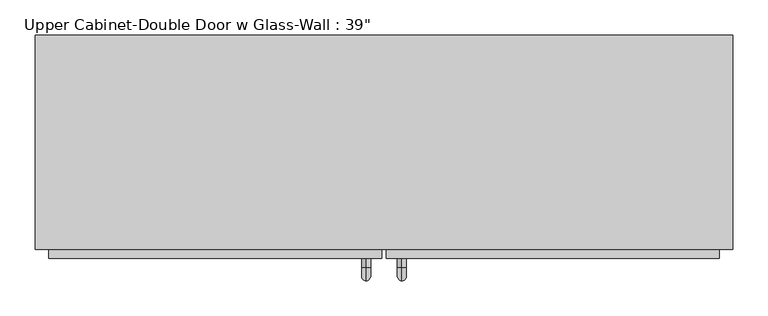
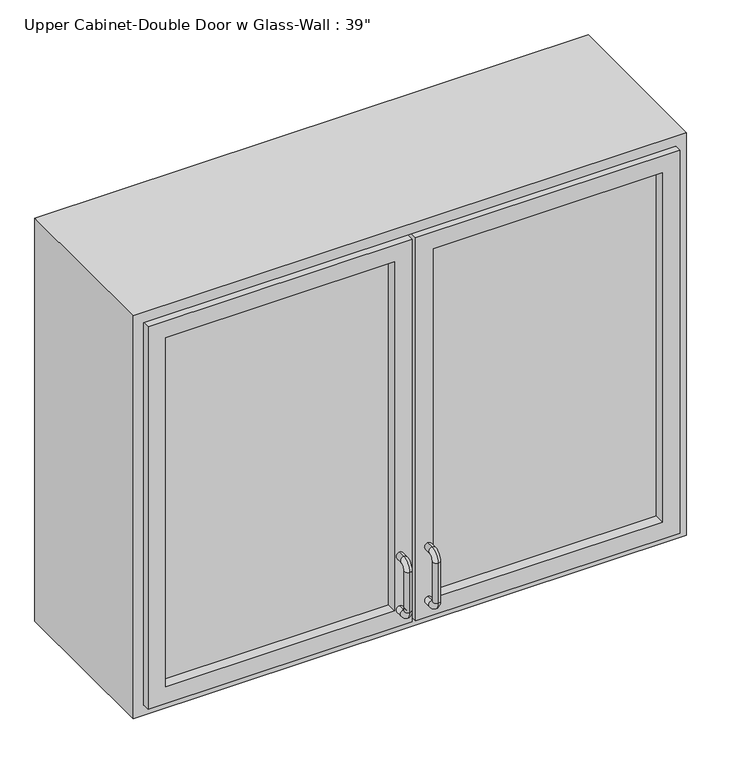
"""IFC4 building model written with IfcOpenShell, lengths in millimetres: furniture geometry."""

from ifc_helpers import new_model, si_unit, point, frame, origin, place, context, project, spatial, polyline, circle_curve, ellipse_curve, trimmed, outline, extrude, faceted_brep, source, transform, mapped, element, save
from ifc_brep_helpers import plane_surface, cylinder_surface, revolved_surface, advanced_brep


def furniture_7e61e6c6(model_context):
    return source(origin(), model_context, "Body", "SolidModel", [
        faceted_brep([(-465.5288372, -76.2, 2133.6), (525.0711628, -76.2, 2133.6), (525.0711628, -76.2, 1371.6), (-465.5288372, -76.2, 1371.6), (-465.5288372, -381.0, 2133.6), (-465.5288372, -381.0, 1371.6), (525.0711628, -381.0, 1371.6), (525.0711628, -381.0, 2133.6), (-446.4788372, -381.0, 2114.55), (506.0211628, -381.0, 2114.55), (506.0211628, -381.0, 1390.65), (-446.4788372, -381.0, 1390.65), (-446.4788372, -95.25, 2114.55), (506.0211628, -95.25, 2114.55), (506.0211628, -95.25, 1390.65), (-446.4788372, -95.25, 1390.65)], [[[0, 1, 2, 3]], [[4, 5, 6, 7], [8, 9, 10, 11]], [[3, 5, 4, 0]], [[2, 6, 5, 3]], [[1, 7, 6, 2]], [[0, 4, 7, 1]], [[8, 12, 13, 9]], [[9, 13, 14, 10]], [[10, 14, 15, 11]], [[11, 15, 12, 8]], [[12, 15, 14, 13]]]),
        advanced_brep(
        [(55.1711628, -393.7, 1517.65), (55.1711628, -393.7, 1530.35), (55.1711628, -406.4, 1530.35), (55.1711628, -406.4, 1517.65), (55.1711628, -425.45, 1511.3), (55.1711628, -412.75, 1511.3), (55.1711628, -425.45, 1435.1), (55.1711628, -412.75, 1435.1), (55.1711628, -406.4, 1416.05), (55.1711628, -406.4, 1428.75), (55.1711628, -393.7, 1428.75), (55.1711628, -393.7, 1416.05)],
        [
            (0, 1, circle_curve(frame((55.1711628, -393.7, 1524.0), z_axis=(0.0, 1.0, 0.0), x_axis=(0.0, 0.0, -1.0)), 6.35)),
            (1, 0, circle_curve(frame((55.1711628, -393.7, 1524.0), z_axis=(0.0, 1.0, 0.0), x_axis=(0.0, 0.0, -1.0)), 6.35)),
            (1, 2),
            (2, 3, circle_curve(frame((55.1711628, -406.4, 1524.0), z_axis=(0.0, 1.0, 0.0), x_axis=(0.0, 0.0, -1.0)), 6.35)),
            (3, 0),
            (3, 2, circle_curve(frame((55.1711628, -406.4, 1524.0), z_axis=(0.0, 1.0, 0.0), x_axis=(0.0, 0.0, -1.0)), 6.35)),
            (4, 5, circle_curve(frame((55.1711628, -419.1, 1511.3), z_axis=(0.0, 0.0, 1.0), x_axis=(0.0, 1.0, 0.0)), 6.35)),
            (5, 3, circle_curve(frame((55.1711628, -406.4, 1511.3), z_axis=(-1.0, 0.0, 0.0), x_axis=(0.0, 0.0, 1.0)), 6.35)),
            (2, 4, circle_curve(frame((55.1711628, -406.4, 1511.3), z_axis=(1.0, 0.0, 0.0), x_axis=(0.0, 0.0, 1.0)), 19.05)),
            (5, 4, circle_curve(frame((55.1711628, -419.1, 1511.3), z_axis=(0.0, 0.0, 1.0), x_axis=(0.0, 1.0, 0.0)), 6.35)),
            (4, 6),
            (6, 7, circle_curve(frame((55.1711628, -419.1, 1435.1), z_axis=(0.0, 0.0, 1.0), x_axis=(0.0, 1.0, 0.0)), 6.35)),
            (7, 5),
            (7, 6, circle_curve(frame((55.1711628, -419.1, 1435.1), z_axis=(0.0, 0.0, 1.0), x_axis=(0.0, 1.0, 0.0)), 6.35)),
            (8, 9, circle_curve(frame((55.1711628, -406.4, 1422.4), z_axis=(0.0, -1.0, 0.0), x_axis=(0.0, 0.0, 1.0)), 6.35)),
            (9, 7, circle_curve(frame((55.1711628, -406.4, 1435.1), z_axis=(-1.0, 0.0, 0.0), x_axis=(0.0, -1.0, 0.0)), 6.35)),
            (6, 8, circle_curve(frame((55.1711628, -406.4, 1435.1), z_axis=(1.0, 0.0, 0.0), x_axis=(0.0, -1.0, 0.0)), 19.05)),
            (9, 8, circle_curve(frame((55.1711628, -406.4, 1422.4), z_axis=(0.0, -1.0, 0.0), x_axis=(0.0, 0.0, 1.0)), 6.35)),
            (10, 11, circle_curve(frame((55.1711628, -393.7, 1422.4), z_axis=(0.0, 1.0, 0.0), x_axis=(0.0, 0.0, 1.0)), 6.35)),
            (11, 10, circle_curve(frame((55.1711628, -393.7, 1422.4), z_axis=(0.0, 1.0, 0.0), x_axis=(0.0, 0.0, 1.0)), 6.35)),
            (8, 11),
            (10, 9),
        ],
        [
            plane_surface(frame((48.8211628, -393.7, 1524.0), z_axis=(0.0, 1.0, 0.0), x_axis=(0.0, 0.0, 1.0))),
            cylinder_surface(frame((55.1711628, -393.7, 1524.0), z_axis=(0.0, 1.0, 0.0), x_axis=(0.0, 0.0, -1.0)), 6.35),
            revolved_surface(trimmed(ellipse_curve(frame((55.1711628, -406.4, 1524.0), z_axis=(0.0, -1.0, 0.0), x_axis=(0.0, 0.0, -1.0)), 6.35, 6.35), [point((55.1711628, -406.4, 1517.65))], [point((55.1711628, -406.4, 1530.35))], True, "CARTESIAN"), (55.1711628, -406.4, 1511.3), (-1.0, 0.0, 0.0)),
            revolved_surface(trimmed(ellipse_curve(frame((55.1711628, -406.4, 1524.0), z_axis=(0.0, -1.0, 0.0), x_axis=(0.0, 0.0, -1.0)), 6.35, 6.35), [point((55.1711628, -406.4, 1530.35))], [point((55.1711628, -406.4, 1517.65))], True, "CARTESIAN"), (55.1711628, -406.4, 1511.3), (-1.0, 0.0, 0.0)),
            cylinder_surface(frame((55.1711628, -419.1, 1511.3), z_axis=(0.0, 0.0, 1.0), x_axis=(0.0, 1.0, 0.0)), 6.35),
            revolved_surface(trimmed(ellipse_curve(frame((55.1711628, -419.1, 1435.1), z_axis=(0.0, 0.0, -1.0), x_axis=(0.0, 1.0, 0.0)), 6.35, 6.35), [point((55.1711628, -412.75, 1435.1))], [point((55.1711628, -425.45, 1435.1))], True, "CARTESIAN"), (55.1711628, -406.4, 1435.1), (-1.0, 0.0, 0.0)),
            revolved_surface(trimmed(ellipse_curve(frame((55.1711628, -419.1, 1435.1), z_axis=(0.0, 0.0, -1.0), x_axis=(0.0, 1.0, 0.0)), 6.35, 6.35), [point((55.1711628, -425.45, 1435.1))], [point((55.1711628, -412.75, 1435.1))], True, "CARTESIAN"), (55.1711628, -406.4, 1435.1), (-1.0, 0.0, 0.0)),
            plane_surface(frame((48.8211628, -393.7, 1422.4), z_axis=(0.0, 1.0, 0.0), x_axis=(0.0, 0.0, -1.0))),
            cylinder_surface(frame((55.1711628, -406.4, 1422.4), z_axis=(0.0, -1.0, 0.0), x_axis=(0.0, 0.0, 1.0)), 6.35),
        ],
        [
            (0, [[1, 2]]),
            (1, [[3, 4, 5, -2]]),
            (1, [[-5, 6, -3, -1]]),
            (2, [[7, 8, -4, 9]]),
            (3, [[10, -9, -6, -8]]),
            (4, [[11, 12, 13, -7]]),
            (4, [[-13, 14, -11, -10]]),
            (5, [[15, 16, -12, 17]]),
            (6, [[18, -17, -14, -16]]),
            (7, [[19, 20]]),
            (8, [[21, -19, 22, -15]]),
            (8, [[-22, -20, -21, -18]]),
        ],
    ),
        advanced_brep(
        [(4.3711628, -393.7, 1517.65), (4.3711628, -393.7, 1530.35), (4.3711628, -406.4, 1530.35), (4.3711628, -406.4, 1517.65), (4.3711628, -425.45, 1511.3), (4.3711628, -412.75, 1511.3), (4.3711628, -425.45, 1435.1), (4.3711628, -412.75, 1435.1), (4.3711628, -406.4, 1416.05), (4.3711628, -406.4, 1428.75), (4.3711628, -393.7, 1428.75), (4.3711628, -393.7, 1416.05)],
        [
            (0, 1, circle_curve(frame((4.3711628, -393.7, 1524.0), z_axis=(0.0, 1.0, 0.0), x_axis=(0.0, 0.0, 1.0)), 6.35)),
            (1, 0, circle_curve(frame((4.3711628, -393.7, 1524.0), z_axis=(0.0, 1.0, 0.0), x_axis=(0.0, 0.0, 1.0)), 6.35)),
            (1, 2),
            (2, 3, circle_curve(frame((4.3711628, -406.4, 1524.0), z_axis=(0.0, 1.0, 0.0), x_axis=(0.0, 0.0, 1.0)), 6.35)),
            (3, 0),
            (3, 2, circle_curve(frame((4.3711628, -406.4, 1524.0), z_axis=(0.0, 1.0, 0.0), x_axis=(0.0, 0.0, 1.0)), 6.35)),
            (4, 5, circle_curve(frame((4.3711628, -419.1, 1511.3), z_axis=(0.0, 0.0, 1.0), x_axis=(0.0, -1.0, 0.0)), 6.35)),
            (5, 3, circle_curve(frame((4.3711628, -406.4, 1511.3), z_axis=(-1.0, 0.0, 0.0), x_axis=(0.0, 0.0, 1.0)), 6.35)),
            (2, 4, circle_curve(frame((4.3711628, -406.4, 1511.3), z_axis=(1.0, 0.0, 0.0), x_axis=(0.0, 0.0, 1.0)), 19.05)),
            (5, 4, circle_curve(frame((4.3711628, -419.1, 1511.3), z_axis=(0.0, 0.0, 1.0), x_axis=(0.0, -1.0, 0.0)), 6.35)),
            (4, 6),
            (6, 7, circle_curve(frame((4.3711628, -419.1, 1435.1), z_axis=(0.0, 0.0, 1.0), x_axis=(0.0, -1.0, 0.0)), 6.35)),
            (7, 5),
            (7, 6, circle_curve(frame((4.3711628, -419.1, 1435.1), z_axis=(0.0, 0.0, 1.0), x_axis=(0.0, -1.0, 0.0)), 6.35)),
            (8, 9, circle_curve(frame((4.3711628, -406.4, 1422.4), z_axis=(0.0, -1.0, 0.0), x_axis=(0.0, 0.0, -1.0)), 6.35)),
            (9, 7, circle_curve(frame((4.3711628, -406.4, 1435.1), z_axis=(-1.0, 0.0, 0.0), x_axis=(0.0, -1.0, 0.0)), 6.35)),
            (6, 8, circle_curve(frame((4.3711628, -406.4, 1435.1), z_axis=(1.0, 0.0, 0.0), x_axis=(0.0, -1.0, 0.0)), 19.05)),
            (9, 8, circle_curve(frame((4.3711628, -406.4, 1422.4), z_axis=(0.0, -1.0, 0.0), x_axis=(0.0, 0.0, -1.0)), 6.35)),
            (10, 11, circle_curve(frame((4.3711628, -393.7, 1422.4), z_axis=(0.0, 1.0, 0.0), x_axis=(0.0, 0.0, -1.0)), 6.35)),
            (11, 10, circle_curve(frame((4.3711628, -393.7, 1422.4), z_axis=(0.0, 1.0, 0.0), x_axis=(0.0, 0.0, -1.0)), 6.35)),
            (8, 11),
            (10, 9),
        ],
        [
            plane_surface(frame((-1.9788372, -393.7, 1524.0), z_axis=(0.0, 1.0, 0.0), x_axis=(0.0, 0.0, 1.0))),
            cylinder_surface(frame((4.3711628, -393.7, 1524.0), z_axis=(0.0, 1.0, 0.0), x_axis=(0.0, 0.0, 1.0)), 6.35),
            revolved_surface(trimmed(ellipse_curve(frame((4.3711628, -406.4, 1524.0), z_axis=(0.0, -1.0, 0.0), x_axis=(0.0, 0.0, 1.0)), 6.35, 6.35), [point((4.3711628, -406.4, 1517.65))], [point((4.3711628, -406.4, 1530.35))], True, "CARTESIAN"), (4.3711628, -406.4, 1511.3), (-1.0, 0.0, 0.0)),
            revolved_surface(trimmed(ellipse_curve(frame((4.3711628, -406.4, 1524.0), z_axis=(0.0, -1.0, 0.0), x_axis=(0.0, 0.0, 1.0)), 6.35, 6.35), [point((4.3711628, -406.4, 1530.35))], [point((4.3711628, -406.4, 1517.65))], True, "CARTESIAN"), (4.3711628, -406.4, 1511.3), (-1.0, 0.0, 0.0)),
            cylinder_surface(frame((4.3711628, -419.1, 1511.3), z_axis=(0.0, 0.0, 1.0), x_axis=(0.0, -1.0, 0.0)), 6.35),
            revolved_surface(trimmed(ellipse_curve(frame((4.3711628, -419.1, 1435.1), z_axis=(0.0, 0.0, -1.0), x_axis=(0.0, -1.0, 0.0)), 6.35, 6.35), [point((4.3711628, -412.75, 1435.1))], [point((4.3711628, -425.45, 1435.1))], True, "CARTESIAN"), (4.3711628, -406.4, 1435.1), (-1.0, 0.0, 0.0)),
            revolved_surface(trimmed(ellipse_curve(frame((4.3711628, -419.1, 1435.1), z_axis=(0.0, 0.0, -1.0), x_axis=(0.0, -1.0, 0.0)), 6.35, 6.35), [point((4.3711628, -425.45, 1435.1))], [point((4.3711628, -412.75, 1435.1))], True, "CARTESIAN"), (4.3711628, -406.4, 1435.1), (-1.0, 0.0, 0.0)),
            plane_surface(frame((-1.9788372, -393.7, 1422.4), z_axis=(0.0, 1.0, 0.0), x_axis=(0.0, 0.0, -1.0))),
            cylinder_surface(frame((4.3711628, -406.4, 1422.4), z_axis=(0.0, -1.0, 0.0), x_axis=(0.0, 0.0, -1.0)), 6.35),
        ],
        [
            (0, [[1, 2]]),
            (1, [[3, 4, 5, -2]]),
            (1, [[-5, 6, -3, -1]]),
            (2, [[7, 8, -4, 9]]),
            (3, [[10, -9, -6, -8]]),
            (4, [[11, 12, 13, -7]]),
            (4, [[-13, 14, -11, -10]]),
            (5, [[15, 16, -12, 17]]),
            (6, [[18, -17, -14, -16]]),
            (7, [[19, 20]]),
            (8, [[21, -19, 22, -15]]),
            (8, [[-22, -20, -21, -18]]),
        ],
    ),
        extrude(outline(polyline([(64.6961628, -374.65), (64.6961628, -368.3), (474.2711628, -368.3), (474.2711628, -374.65), (64.6961628, -374.65)])), frame((0.0, 0.0, 1422.4), z_axis=(0.0, 0.0, 1.0), x_axis=(1.0, 0.0, 0.0)), (0.0, 0.0, 1.0), 660.4),
        extrude(outline(polyline([(-414.7288372, -374.65), (-414.7288372, -368.3), (-5.1538372, -368.3), (-5.1538372, -374.65), (-414.7288372, -374.65)])), frame((0.0, 0.0, 1422.4), z_axis=(0.0, 0.0, 1.0), x_axis=(1.0, 0.0, 0.0)), (0.0, 0.0, 1.0), 660.4),
        extrude(outline(polyline([(2114.55, 32.9461628), (1390.65, 32.9461628), (1390.65, 506.0211628), (2114.55, 506.0211628), (2114.55, 32.9461628)]), holes=[polyline([(1422.4, 64.6961628), (2082.8, 64.6961628), (2082.8, 474.2711628), (1422.4, 474.2711628), (1422.4, 64.6961628)])]), frame((0.0, -393.7, 0.0), z_axis=(0.0, 1.0, 0.0), x_axis=(0.0, 0.0, 1.0)), (0.0, 0.0, 1.0), 31.75),
        extrude(outline(polyline([(1390.65, -446.4788372), (1390.65, 26.5961628), (2114.55, 26.5961628), (2114.55, -446.4788372), (1390.65, -446.4788372)]), holes=[polyline([(2082.8, -5.1538372), (1422.4, -5.1538372), (1422.4, -414.7288372), (2082.8, -414.7288372), (2082.8, -5.1538372)])]), frame((0.0, -393.7, 0.0), z_axis=(0.0, 1.0, 0.0), x_axis=(0.0, 0.0, 1.0)), (0.0, 0.0, 1.0), 31.75),
    ])


if __name__ == "__main__":
    model = new_model("IFC4")
    model_context = context("Model", 3, world=origin())
    ifc_project = project(units=[si_unit("LENGTHUNIT", "METRE", prefix="MILLI")], contexts=[model_context])
    site = spatial("IfcSite", under=ifc_project)
    building = spatial("IfcBuilding", under=site)
    placement = place(None, origin())
    furniture_shape = furniture_7e61e6c6(model_context)
    element("IfcFurniture", 1, ObjectType="Upper Cabinet-Double Door w Glass-Wall : 39\"", at=placement, inside=building, context=model_context, shape_type="MappedRepresentation", body=[
        mapped(furniture_shape, transform((0.0, 0.0, 0.0), x_axis=(1.0, 0.0, 0.0), y_axis=(0.0, 1.0, 0.0), z_axis=(0.0, 0.0, 1.0))),
    ])
    save(model, "model.ifc")
